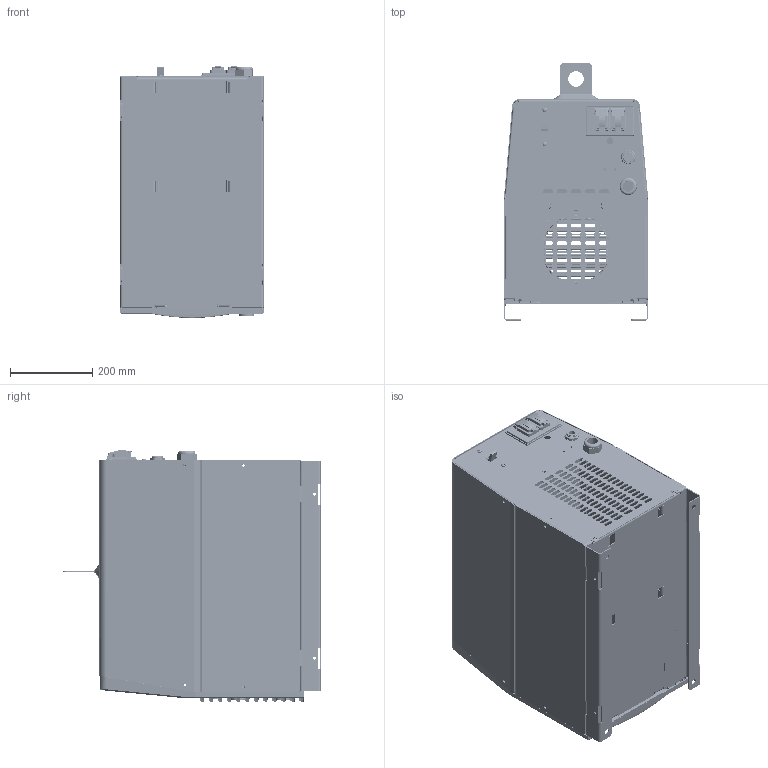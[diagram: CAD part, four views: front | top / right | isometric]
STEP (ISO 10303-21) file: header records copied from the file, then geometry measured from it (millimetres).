
FILE_DESCRIPTION (( 'STEP AP203' ), '1' );
FILE_NAME ('Dynasty_400_Outline.STEP', '2017-04-19T19:20:28', ( 'Windows User' ), ( 'IT' ), 'SwSTEP 2.0', 'SolidWorks 2016', '' );
FILE_SCHEMA (( 'CONFIG_CONTROL_DESIGN' ));
Products named in the file (1): Dynasty_400_Outline
Bounding box: 349.46 x 625.91 x 612.77 mm (x, y, z)
Volume: 4379820.1 mm3; surface area: 4012148.8 mm2
Topology: 35 solids, 35 shells, 7436 faces, 19007 edges, 11703 vertices
Faces by surface type: plane 2903, cylinder 2734, torus 676, bspline 672, cone 321, sphere 130
Entity records: 243841 total; most frequent: CARTESIAN_POINT 67750, ORIENTED_EDGE 37818, DIRECTION 36091, EDGE_CURVE 18909, AXIS2_PLACEMENT_3D 13155, VERTEX_POINT 11701, LINE 9781, VECTOR 9781
